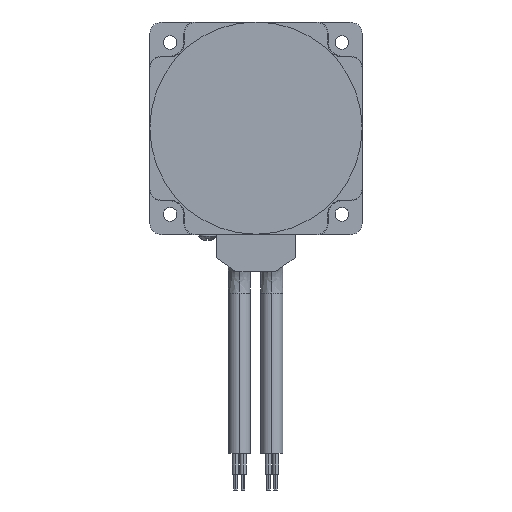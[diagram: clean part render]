
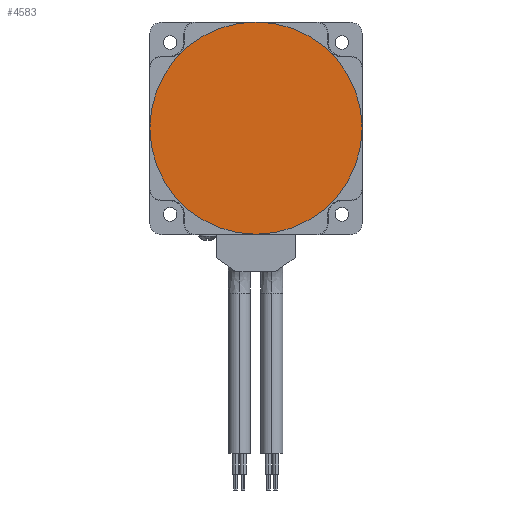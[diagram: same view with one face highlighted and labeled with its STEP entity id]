
A CAD part, front view. The second image highlights one B-rep face of the part: STEP entity #4583.
In plain terms, the highlighted planar face has unit normal (0, -1, 0).
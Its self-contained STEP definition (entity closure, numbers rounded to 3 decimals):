
#4536=CARTESIAN_POINT('',(0.,0.,0.));
#4537=DIRECTION('',(0.,1.,0.));
#4538=DIRECTION('',(1.,0.,0.));
#4539=AXIS2_PLACEMENT_3D('',#4536,#4537,#4538);
#4541=CARTESIAN_POINT('',(0.,0.,0.));
#4542=DIRECTION('',(0.,1.,0.));
#4543=DIRECTION('',(-1.,0.,0.));
#4544=AXIS2_PLACEMENT_3D('',#4541,#4542,#4543);
#4564=CARTESIAN_POINT('',(43.,0.,0.));
#4565=CARTESIAN_POINT('',(-43.,0.,0.));
#4566=VERTEX_POINT('',#4564);
#4567=VERTEX_POINT('',#4565);
#4572=CARTESIAN_POINT('',(0.,0.,0.));
#4573=DIRECTION('',(0.,1.,0.));
#4574=DIRECTION('',(1.,0.,0.));
#4575=AXIS2_PLACEMENT_3D('',#4572,#4573,#4574);
#4576=PLANE('',#4575);
#4578=ORIENTED_EDGE('',*,*,#4577,.T.);
#4580=ORIENTED_EDGE('',*,*,#4579,.T.);
#4581=EDGE_LOOP('',(#4578,#4580));
#4582=FACE_OUTER_BOUND('',#4581,.F.);
#4583=ADVANCED_FACE('',(#4582),#4576,.F.);
#4540=CIRCLE('',#4539,43.);
#4545=CIRCLE('',#4544,43.);
#4577=EDGE_CURVE('',#4566,#4567,#4540,.T.);
#4579=EDGE_CURVE('',#4567,#4566,#4545,.T.);
